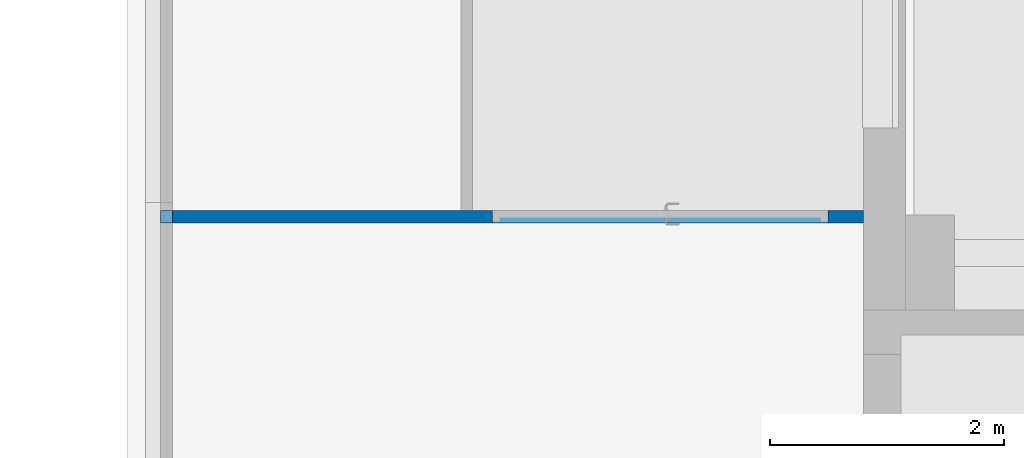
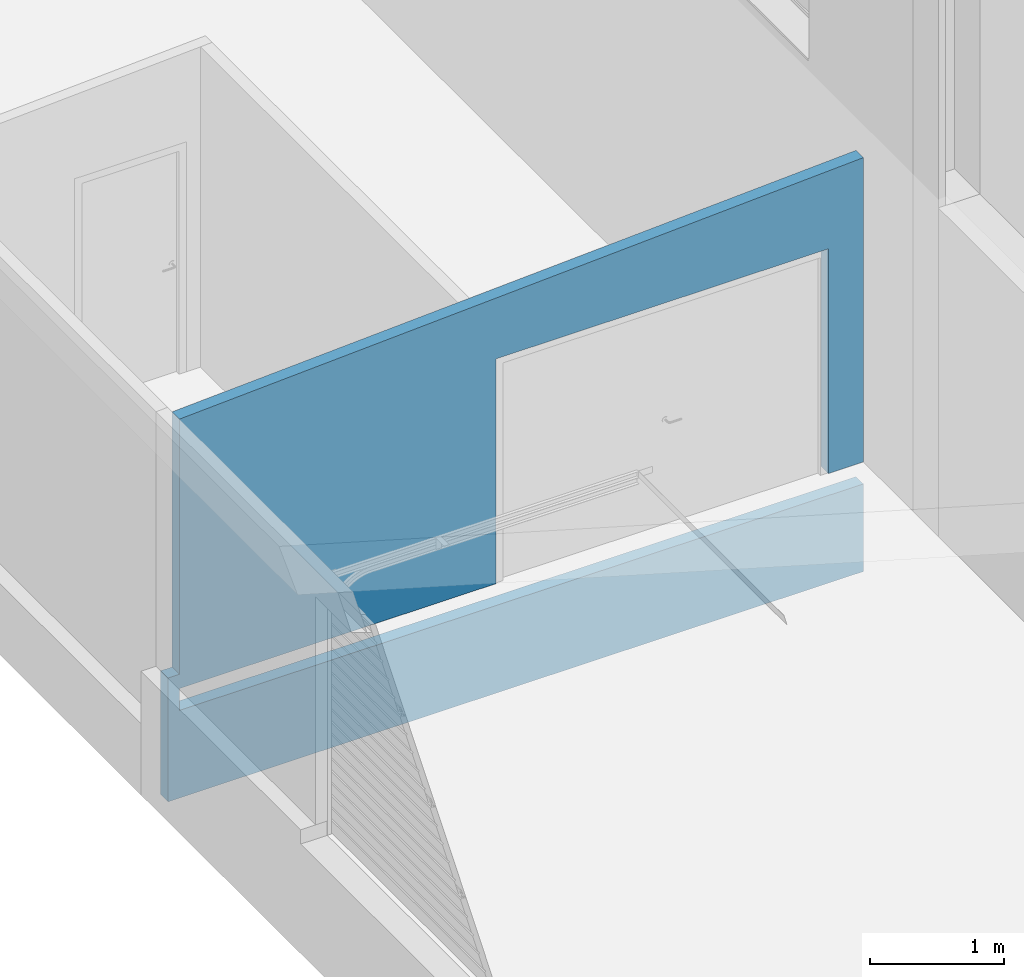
# One storey, part 138 of 301: 1 wall, 1 opening.
"""IFC2X3 building model written with IfcOpenShell, lengths in millimetres."""

from ifc_helpers import new_model, entity, si_unit, converted_unit, derived_unit, money_unit, direction, frame, origin_with_axes, place, context, subcontext, project, spatial, faceted_brep, material, type_object, element, save


model = new_model("IFC2X3")

# Units and contexts
model_context = context("Model", 3, precision=0.01, world=origin_with_axes(), true_north=direction((0.0, 1.0)))
body_context = subcontext(model_context, "Body", "Model", "MODEL_VIEW")
ifc_project = project(units=[si_unit("LENGTHUNIT", "METRE", prefix="MILLI"), si_unit("AREAUNIT", "SQUARE_METRE"), si_unit("VOLUMEUNIT", "CUBIC_METRE"), converted_unit("PLANEANGLEUNIT", "DEGREE", entity("IfcPlaneAngleMeasure", 0.0174532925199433), si_unit("PLANEANGLEUNIT", "RADIAN"), dimensions=[0, 0, 0, 0, 0, 0, 0]), money_unit("EUR"), converted_unit("TIMEUNIT", "Year", entity("IfcTimeMeasure", 31557600.0), si_unit("TIMEUNIT", "SECOND"), dimensions=[0, 0, 1, 0, 0, 0, 0]), si_unit("MASSUNIT", "GRAM", prefix="KILO"), si_unit("THERMODYNAMICTEMPERATUREUNIT", "DEGREE_CELSIUS"), si_unit("LUMINOUSINTENSITYUNIT", "LUMEN"), si_unit("ENERGYUNIT", "JOULE", prefix="MEGA"), derived_unit("THERMALCONDUCTANCEUNIT", [(si_unit("POWERUNIT", "WATT"), 1), (si_unit("LENGTHUNIT", "METRE"), -1), (si_unit("THERMODYNAMICTEMPERATUREUNIT", "KELVIN"), -1)]), derived_unit("SPECIFICHEATCAPACITYUNIT", [(si_unit("ENERGYUNIT", "JOULE"), 1), (si_unit("MASSUNIT", "GRAM", prefix="KILO"), -1), (si_unit("THERMODYNAMICTEMPERATUREUNIT", "KELVIN"), -1)]), derived_unit("MASSDENSITYUNIT", [(si_unit("MASSUNIT", "GRAM", prefix="KILO"), 1), (si_unit("VOLUMEUNIT", "CUBIC_METRE"), -1)])], contexts=[model_context])

# Site, building, storey
site_placement = place(None, frame((0.0, 0.0, 8650.0), z_axis=(0.0, 0.0, 1.0), x_axis=(1.0, 0.0, 0.0)))
site = spatial("IfcSite", under=ifc_project, at=site_placement, Name="43301:001:0844", CompositionType="ELEMENT")
building_placement = place(site_placement, origin_with_axes())
building = spatial("IfcBuilding", under=site, at=building_placement, Name="Kuressaare Ametikooli tuulikute mehaanikute õppekorpus", CompositionType="ELEMENT")
storey_placement = place(building_placement, origin_with_axes())
storey = spatial("IfcBuildingStorey", under=building, at=storey_placement, Name="1.korrus", CompositionType="ELEMENT", Elevation=0.0)

# Wall, opening
ifc_material = material(Name="GENEERILINE - KONSTRUKTRIOON")
wall_type = type_object("IfcWallType", Name="GENEERILINE - KONSTRUKTRIOON 110", PredefinedType="NOTDEFINED")
wall_placement = place(storey_placement, frame((87898.75644683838, 63168.61006674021, -1000.0), z_axis=(0.0, 0.0, 1.0), x_axis=(-1.0, 0.0, 0.0)))
wall = element("IfcWall", 1, at=wall_placement, inside=storey, type_object=wall_type, material=ifc_material, context=body_context, shape_type="Brep", body=[
    faceted_brep([(5906.91765785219, 0.0, 3459.638466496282), (0.0, 5.048228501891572e-06, 3779.542145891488), (0.0, 7.105533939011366e-06, 1000.0), (302.0357219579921, 7.105533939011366e-06, 1000.0), (302.0357219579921, 7.105533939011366e-06, 3052.418804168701), (3172.035721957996, 7.105533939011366e-06, 3052.418804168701), (3172.035721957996, 7.105533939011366e-06, 1000.0), (5906.86781985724, 7.105533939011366e-06, 1000.0), (5906.86781985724, 7.105533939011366e-06, 799.9999999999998), (0.0, 7.105533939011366e-06, 799.9999999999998), (0.0, 0.0, 0.0), (6006.917657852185, 0.0, 0.0), (6006.917657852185, 0.0, 1130.0), (5906.91765785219, 0.0, 1130.0), (0.0, 109.9999999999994, 3779.514097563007), (5906.91765785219, 109.9999999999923, 3459.610418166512), (0.0, 109.9999999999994, 1000.0), (302.0357219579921, 109.9999999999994, 1000.0), (302.0357219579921, 109.9999999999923, 3052.418804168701), (3172.035721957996, 109.9999999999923, 3052.418804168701), (3172.035721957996, 109.9999999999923, 1000.0), (5906.86781985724, 109.9999999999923, 1000.0), (5906.86781985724, 109.9999999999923, 799.9999999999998), (0.0, 109.9999999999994, 799.9999999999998), (0.0, 109.9999999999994, 0.0), (6006.917657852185, 109.9999999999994, 0.0), (6006.917657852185, 109.9999999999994, 1130.0), (5906.91765785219, 109.9999999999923, 1130.0)], [[[0, 1, 2, 3, 4, 5, 6, 7, 8, 9, 10, 11, 12, 13]], [[14, 1, 0, 15]], [[1, 14, 16, 2]], [[16, 17, 3, 2]], [[18, 4, 3, 17]], [[19, 5, 4, 18]], [[20, 6, 5, 19]], [[7, 6, 20, 21]], [[22, 8, 7, 21]], [[22, 23, 9, 8]], [[10, 9, 23, 24]], [[11, 10, 24, 25]], [[11, 25, 26, 12]], [[26, 27, 13, 12]], [[15, 0, 13, 27]], [[14, 15, 27, 26, 25, 24, 23, 22, 21, 20, 19, 18, 17, 16]]]),
])
opening_placement = place(wall_placement, frame((1737.035721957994, 0.0, 952.4188041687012), z_axis=(0.0, 0.0, 1.0), x_axis=(1.0, 0.0, 0.0)))
element("IfcOpeningElement", 2, at=opening_placement, cuts=wall, Name="SU-XX", context=body_context, shape_type="Brep", body=[
    faceted_brep([(1435.000000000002, 110.9999999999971, 2100.0), (1435.000000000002, 110.9999999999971, 0.0), (-1435.000000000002, 110.9999999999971, 0.0), (-1435.000000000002, 110.9999999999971, 2100.0), (1435.000000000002, -0.9999999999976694, 2100.0), (1435.000000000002, -0.9999999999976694, 0.0), (-1435.000000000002, -0.9999999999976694, 0.0), (-1435.000000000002, -0.9999999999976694, 2100.0)], [[[0, 1, 2, 3]], [[4, 5, 1, 0]], [[5, 6, 2, 1]], [[6, 7, 3, 2]], [[7, 4, 0, 3]], [[6, 5, 4, 7]]]),
])

save(model, "model.ifc")
